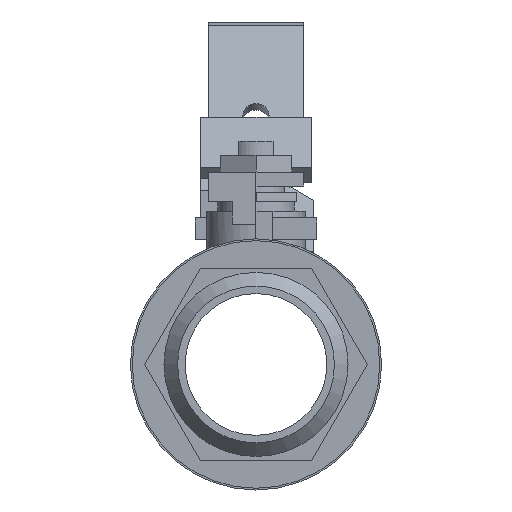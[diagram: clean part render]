
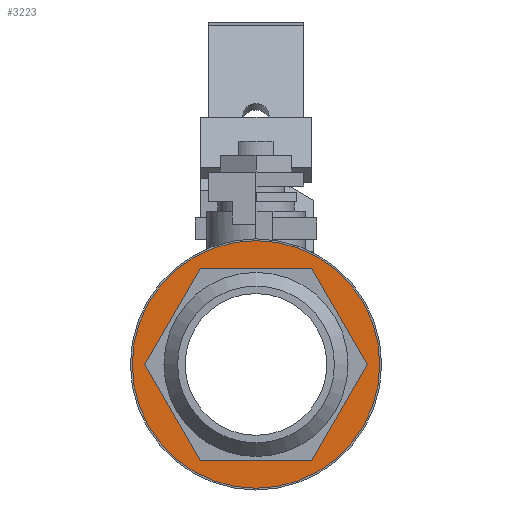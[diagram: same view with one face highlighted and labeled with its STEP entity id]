
A CAD part, left-side view. The second image highlights one B-rep face of the part: STEP entity #3223.
In plain terms, the highlighted planar face has unit normal (-1, 0, 0).
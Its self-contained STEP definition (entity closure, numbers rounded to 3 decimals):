
#3155 = CYLINDRICAL_SURFACE('',#3156,1.419);
#3156 = AXIS2_PLACEMENT_3D('',#3157,#3158,#3159);
#3157 = CARTESIAN_POINT('',(1.831,0.,
    0.));
#3158 = DIRECTION('',(1.,0.,0.));
#3159 = DIRECTION('',(0.,-1.,0.));
#3175 = VERTEX_POINT('',#3176);
#3176 = CARTESIAN_POINT('',(1.831,-1.419,0.));
#3196 = EDGE_CURVE('',#3175,#3175,#3197,.T.);
#3197 = SURFACE_CURVE('',#3198,(#3203,#3210),.PCURVE_S1.);
#3198 = CIRCLE('',#3199,1.419);
#3199 = AXIS2_PLACEMENT_3D('',#3200,#3201,#3202);
#3200 = CARTESIAN_POINT('',(1.831,0.,
    0.));
#3201 = DIRECTION('',(-1.,0.,0.));
#3202 = DIRECTION('',(0.,-1.,0.));
#3203 = PCURVE('',#3155,#3204);
#3204 = DEFINITIONAL_REPRESENTATION('',(#3205),#3209);
#3205 = LINE('',#3206,#3207);
#3206 = CARTESIAN_POINT('',(6.283,0.));
#3207 = VECTOR('',#3208,1.);
#3208 = DIRECTION('',(-1.,0.));
#3209 = ( GEOMETRIC_REPRESENTATION_CONTEXT(2) 
PARAMETRIC_REPRESENTATION_CONTEXT() REPRESENTATION_CONTEXT('2D SPACE',''
  ) );
#3210 = PCURVE('',#3211,#3216);
#3211 = PLANE('',#3212);
#3212 = AXIS2_PLACEMENT_3D('',#3213,#3214,#3215);
#3213 = CARTESIAN_POINT('',(1.831,0.,
    0.));
#3214 = DIRECTION('',(-1.,0.,0.));
#3215 = DIRECTION('',(0.,0.,1.));
#3216 = DEFINITIONAL_REPRESENTATION('',(#3217),#3221);
#3217 = CIRCLE('',#3218,1.419);
#3218 = AXIS2_PLACEMENT_2D('',#3219,#3220);
#3219 = CARTESIAN_POINT('',(0.,0.));
#3220 = DIRECTION('',(0.,-1.));
#3221 = ( GEOMETRIC_REPRESENTATION_CONTEXT(2) 
PARAMETRIC_REPRESENTATION_CONTEXT() REPRESENTATION_CONTEXT('2D SPACE',''
  ) );
#3223 = ADVANCED_FACE('',(#3224,#3394),#3211,.T.);
#3224 = FACE_BOUND('',#3225,.T.);
#3225 = EDGE_LOOP('',(#3226,#3256,#3284,#3312,#3340,#3368));
#3226 = ORIENTED_EDGE('',*,*,#3227,.T.);
#3227 = EDGE_CURVE('',#3228,#3230,#3232,.T.);
#3228 = VERTEX_POINT('',#3229);
#3229 = CARTESIAN_POINT('',(1.831,-0.638,1.105));
#3230 = VERTEX_POINT('',#3231);
#3231 = CARTESIAN_POINT('',(1.831,-1.276,0.));
#3232 = SURFACE_CURVE('',#3233,(#3237,#3244),.PCURVE_S1.);
#3233 = LINE('',#3234,#3235);
#3234 = CARTESIAN_POINT('',(1.831,-0.957,0.553));
#3235 = VECTOR('',#3236,1.);
#3236 = DIRECTION('',(0.,-0.5,-0.866));
#3237 = PCURVE('',#3211,#3238);
#3238 = DEFINITIONAL_REPRESENTATION('',(#3239),#3243);
#3239 = LINE('',#3240,#3241);
#3240 = CARTESIAN_POINT('',(0.553,-0.957));
#3241 = VECTOR('',#3242,1.);
#3242 = DIRECTION('',(-0.866,-0.5));
#3243 = ( GEOMETRIC_REPRESENTATION_CONTEXT(2) 
PARAMETRIC_REPRESENTATION_CONTEXT() REPRESENTATION_CONTEXT('2D SPACE',''
  ) );
#3244 = PCURVE('',#3245,#3250);
#3245 = PLANE('',#3246);
#3246 = AXIS2_PLACEMENT_3D('',#3247,#3248,#3249);
#3247 = CARTESIAN_POINT('',(1.456,-0.957,0.553));
#3248 = DIRECTION('',(0.,-0.866,0.5));
#3249 = DIRECTION('',(0.,-0.5,-0.866));
#3250 = DEFINITIONAL_REPRESENTATION('',(#3251),#3255);
#3251 = LINE('',#3252,#3253);
#3252 = CARTESIAN_POINT('',(0.,0.375));
#3253 = VECTOR('',#3254,1.);
#3254 = DIRECTION('',(1.,0.));
#3255 = ( GEOMETRIC_REPRESENTATION_CONTEXT(2) 
PARAMETRIC_REPRESENTATION_CONTEXT() REPRESENTATION_CONTEXT('2D SPACE',''
  ) );
#3256 = ORIENTED_EDGE('',*,*,#3257,.T.);
#3257 = EDGE_CURVE('',#3230,#3258,#3260,.T.);
#3258 = VERTEX_POINT('',#3259);
#3259 = CARTESIAN_POINT('',(1.831,-0.638,-1.105));
#3260 = SURFACE_CURVE('',#3261,(#3265,#3272),.PCURVE_S1.);
#3261 = LINE('',#3262,#3263);
#3262 = CARTESIAN_POINT('',(1.831,-0.957,-0.553));
#3263 = VECTOR('',#3264,1.);
#3264 = DIRECTION('',(0.,0.5,-0.866));
#3265 = PCURVE('',#3211,#3266);
#3266 = DEFINITIONAL_REPRESENTATION('',(#3267),#3271);
#3267 = LINE('',#3268,#3269);
#3268 = CARTESIAN_POINT('',(-0.553,-0.957));
#3269 = VECTOR('',#3270,1.);
#3270 = DIRECTION('',(-0.866,0.5));
#3271 = ( GEOMETRIC_REPRESENTATION_CONTEXT(2) 
PARAMETRIC_REPRESENTATION_CONTEXT() REPRESENTATION_CONTEXT('2D SPACE',''
  ) );
#3272 = PCURVE('',#3273,#3278);
#3273 = PLANE('',#3274);
#3274 = AXIS2_PLACEMENT_3D('',#3275,#3276,#3277);
#3275 = CARTESIAN_POINT('',(1.456,-0.957,-0.553));
#3276 = DIRECTION('',(0.,-0.866,-0.5));
#3277 = DIRECTION('',(0.,0.5,-0.866));
#3278 = DEFINITIONAL_REPRESENTATION('',(#3279),#3283);
#3279 = LINE('',#3280,#3281);
#3280 = CARTESIAN_POINT('',(0.,0.375));
#3281 = VECTOR('',#3282,1.);
#3282 = DIRECTION('',(1.,0.));
#3283 = ( GEOMETRIC_REPRESENTATION_CONTEXT(2) 
PARAMETRIC_REPRESENTATION_CONTEXT() REPRESENTATION_CONTEXT('2D SPACE',''
  ) );
#3284 = ORIENTED_EDGE('',*,*,#3285,.T.);
#3285 = EDGE_CURVE('',#3258,#3286,#3288,.T.);
#3286 = VERTEX_POINT('',#3287);
#3287 = CARTESIAN_POINT('',(1.831,0.638,-1.105));
#3288 = SURFACE_CURVE('',#3289,(#3293,#3300),.PCURVE_S1.);
#3289 = LINE('',#3290,#3291);
#3290 = CARTESIAN_POINT('',(1.831,0.,-1.105));
#3291 = VECTOR('',#3292,1.);
#3292 = DIRECTION('',(0.,1.,0.));
#3293 = PCURVE('',#3211,#3294);
#3294 = DEFINITIONAL_REPRESENTATION('',(#3295),#3299);
#3295 = LINE('',#3296,#3297);
#3296 = CARTESIAN_POINT('',(-1.105,0.));
#3297 = VECTOR('',#3298,1.);
#3298 = DIRECTION('',(0.,1.));
#3299 = ( GEOMETRIC_REPRESENTATION_CONTEXT(2) 
PARAMETRIC_REPRESENTATION_CONTEXT() REPRESENTATION_CONTEXT('2D SPACE',''
  ) );
#3300 = PCURVE('',#3301,#3306);
#3301 = PLANE('',#3302);
#3302 = AXIS2_PLACEMENT_3D('',#3303,#3304,#3305);
#3303 = CARTESIAN_POINT('',(1.456,0.,-1.105));
#3304 = DIRECTION('',(0.,0.,-1.));
#3305 = DIRECTION('',(0.,1.,0.));
#3306 = DEFINITIONAL_REPRESENTATION('',(#3307),#3311);
#3307 = LINE('',#3308,#3309);
#3308 = CARTESIAN_POINT('',(0.,0.375));
#3309 = VECTOR('',#3310,1.);
#3310 = DIRECTION('',(1.,0.));
#3311 = ( GEOMETRIC_REPRESENTATION_CONTEXT(2) 
PARAMETRIC_REPRESENTATION_CONTEXT() REPRESENTATION_CONTEXT('2D SPACE',''
  ) );
#3312 = ORIENTED_EDGE('',*,*,#3313,.T.);
#3313 = EDGE_CURVE('',#3286,#3314,#3316,.T.);
#3314 = VERTEX_POINT('',#3315);
#3315 = CARTESIAN_POINT('',(1.831,1.276,0.));
#3316 = SURFACE_CURVE('',#3317,(#3321,#3328),.PCURVE_S1.);
#3317 = LINE('',#3318,#3319);
#3318 = CARTESIAN_POINT('',(1.831,0.957,-0.553));
#3319 = VECTOR('',#3320,1.);
#3320 = DIRECTION('',(0.,0.5,0.866));
#3321 = PCURVE('',#3211,#3322);
#3322 = DEFINITIONAL_REPRESENTATION('',(#3323),#3327);
#3323 = LINE('',#3324,#3325);
#3324 = CARTESIAN_POINT('',(-0.553,0.957));
#3325 = VECTOR('',#3326,1.);
#3326 = DIRECTION('',(0.866,0.5));
#3327 = ( GEOMETRIC_REPRESENTATION_CONTEXT(2) 
PARAMETRIC_REPRESENTATION_CONTEXT() REPRESENTATION_CONTEXT('2D SPACE',''
  ) );
#3328 = PCURVE('',#3329,#3334);
#3329 = PLANE('',#3330);
#3330 = AXIS2_PLACEMENT_3D('',#3331,#3332,#3333);
#3331 = CARTESIAN_POINT('',(1.456,0.957,-0.553));
#3332 = DIRECTION('',(0.,0.866,-0.5));
#3333 = DIRECTION('',(0.,0.5,0.866));
#3334 = DEFINITIONAL_REPRESENTATION('',(#3335),#3339);
#3335 = LINE('',#3336,#3337);
#3336 = CARTESIAN_POINT('',(0.,0.375));
#3337 = VECTOR('',#3338,1.);
#3338 = DIRECTION('',(1.,0.));
#3339 = ( GEOMETRIC_REPRESENTATION_CONTEXT(2) 
PARAMETRIC_REPRESENTATION_CONTEXT() REPRESENTATION_CONTEXT('2D SPACE',''
  ) );
#3340 = ORIENTED_EDGE('',*,*,#3341,.T.);
#3341 = EDGE_CURVE('',#3314,#3342,#3344,.T.);
#3342 = VERTEX_POINT('',#3343);
#3343 = CARTESIAN_POINT('',(1.831,0.638,1.105));
#3344 = SURFACE_CURVE('',#3345,(#3349,#3356),.PCURVE_S1.);
#3345 = LINE('',#3346,#3347);
#3346 = CARTESIAN_POINT('',(1.831,0.957,0.553));
#3347 = VECTOR('',#3348,1.);
#3348 = DIRECTION('',(0.,-0.5,0.866));
#3349 = PCURVE('',#3211,#3350);
#3350 = DEFINITIONAL_REPRESENTATION('',(#3351),#3355);
#3351 = LINE('',#3352,#3353);
#3352 = CARTESIAN_POINT('',(0.553,0.957));
#3353 = VECTOR('',#3354,1.);
#3354 = DIRECTION('',(0.866,-0.5));
#3355 = ( GEOMETRIC_REPRESENTATION_CONTEXT(2) 
PARAMETRIC_REPRESENTATION_CONTEXT() REPRESENTATION_CONTEXT('2D SPACE',''
  ) );
#3356 = PCURVE('',#3357,#3362);
#3357 = PLANE('',#3358);
#3358 = AXIS2_PLACEMENT_3D('',#3359,#3360,#3361);
#3359 = CARTESIAN_POINT('',(1.456,0.957,0.553));
#3360 = DIRECTION('',(0.,0.866,0.5));
#3361 = DIRECTION('',(0.,-0.5,0.866));
#3362 = DEFINITIONAL_REPRESENTATION('',(#3363),#3367);
#3363 = LINE('',#3364,#3365);
#3364 = CARTESIAN_POINT('',(0.,0.375));
#3365 = VECTOR('',#3366,1.);
#3366 = DIRECTION('',(1.,0.));
#3367 = ( GEOMETRIC_REPRESENTATION_CONTEXT(2) 
PARAMETRIC_REPRESENTATION_CONTEXT() REPRESENTATION_CONTEXT('2D SPACE',''
  ) );
#3368 = ORIENTED_EDGE('',*,*,#3369,.T.);
#3369 = EDGE_CURVE('',#3342,#3228,#3370,.T.);
#3370 = SURFACE_CURVE('',#3371,(#3375,#3382),.PCURVE_S1.);
#3371 = LINE('',#3372,#3373);
#3372 = CARTESIAN_POINT('',(1.831,0.,1.105));
#3373 = VECTOR('',#3374,1.);
#3374 = DIRECTION('',(0.,-1.,0.));
#3375 = PCURVE('',#3211,#3376);
#3376 = DEFINITIONAL_REPRESENTATION('',(#3377),#3381);
#3377 = LINE('',#3378,#3379);
#3378 = CARTESIAN_POINT('',(1.105,0.));
#3379 = VECTOR('',#3380,1.);
#3380 = DIRECTION('',(0.,-1.));
#3381 = ( GEOMETRIC_REPRESENTATION_CONTEXT(2) 
PARAMETRIC_REPRESENTATION_CONTEXT() REPRESENTATION_CONTEXT('2D SPACE',''
  ) );
#3382 = PCURVE('',#3383,#3388);
#3383 = PLANE('',#3384);
#3384 = AXIS2_PLACEMENT_3D('',#3385,#3386,#3387);
#3385 = CARTESIAN_POINT('',(1.456,0.,1.105));
#3386 = DIRECTION('',(0.,0.,1.));
#3387 = DIRECTION('',(0.,-1.,0.));
#3388 = DEFINITIONAL_REPRESENTATION('',(#3389),#3393);
#3389 = LINE('',#3390,#3391);
#3390 = CARTESIAN_POINT('',(0.,0.375));
#3391 = VECTOR('',#3392,1.);
#3392 = DIRECTION('',(1.,0.));
#3393 = ( GEOMETRIC_REPRESENTATION_CONTEXT(2) 
PARAMETRIC_REPRESENTATION_CONTEXT() REPRESENTATION_CONTEXT('2D SPACE',''
  ) );
#3394 = FACE_BOUND('',#3395,.T.);
#3395 = EDGE_LOOP('',(#3396));
#3396 = ORIENTED_EDGE('',*,*,#3196,.T.);
